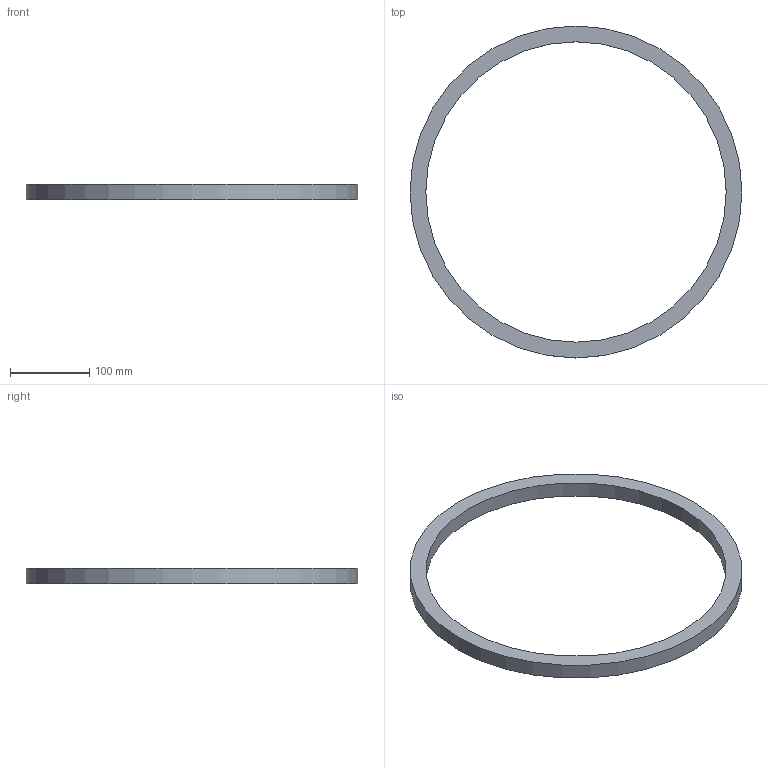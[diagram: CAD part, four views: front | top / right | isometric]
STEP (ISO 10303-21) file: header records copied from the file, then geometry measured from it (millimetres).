
FILE_DESCRIPTION(('FreeCAD Model'),'2;1');
FILE_NAME('Open CASCADE Shape Model','2026-01-29T08:13:04',(''),(''), 'Open CASCADE STEP processor 7.7','FreeCAD','Unknown');
FILE_SCHEMA(('AUTOMOTIVE_DESIGN { 1 0 10303 214 1 1 1 1 }'));
Length unit declared in the file: metre
Products named in the file (1): Revolve
Bounding box: 420 x 420 x 20 mm (x, y, z)
Volume: 502654.8 mm3; surface area: 100531 mm2
Topology: 1 solids, 1 shells, 4 faces, 6 edges, 4 vertices
Faces by surface type: plane 2, cylinder 2
Full cylindrical faces by diameter (mm): 380 x1, 420 x1
Entity records: 120 total; most frequent: DIRECTION 20, CARTESIAN_POINT 15, ORIENTED_EDGE 12, AXIS2_PLACEMENT_3D 9, FACE_BOUND 6, EDGE_LOOP 6, EDGE_CURVE 6, ADVANCED_FACE 4
